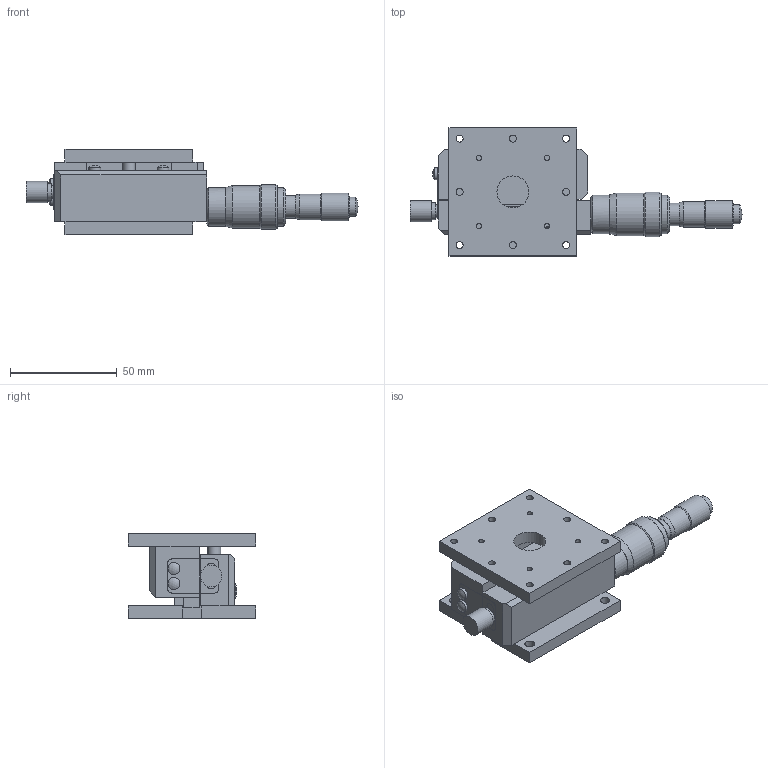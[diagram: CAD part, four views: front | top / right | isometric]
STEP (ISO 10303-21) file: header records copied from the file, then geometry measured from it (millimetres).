
FILE_DESCRIPTION( ( 'STEP AP214' ), '1' );
FILE_NAME( 'C:/Project/3D_B33-60B-配布-070508.stp', '2007-05-08T10:43:25', ( ' ' ), ( ' ' ), 'XStep 1.0', ' ', ' ' );
FILE_SCHEMA( ( 'automotive_design' ) );
Length unit declared in the file: millimetre
Products named in the file (4): 1; 2; 3; 4
Bounding box: 155.8 x 60 x 40 mm (x, y, z)
Volume: 113317.7 mm3; surface area: 41151.7 mm2
Topology: 4 solids, 4 shells, 175 faces, 430 edges, 279 vertices
Faces by surface type: plane 109, cylinder 50, cone 9, sphere 7
Full cylindrical faces by diameter (mm): 2.5 x4, 3.3 x8, 4 x1, 4.5 x4, 5 x4, 5.6 x4, 6 x2, 8 x2, 9 x2, 9.5 x1, 10 x3, 10.5 x2, 12 x1, 13 x1, 15 x1, 18 x2, 20 x1, 21 x1
Entity records: 6176 total; most frequent: DIRECTION 823, CARTESIAN_POINT 787, ORIENTED_EDGE 704, EDGE_CURVE 352, AXIS2_PLACEMENT_3D 292, EDGE_LOOP 278, VERTEX_POINT 256, LINE 239
